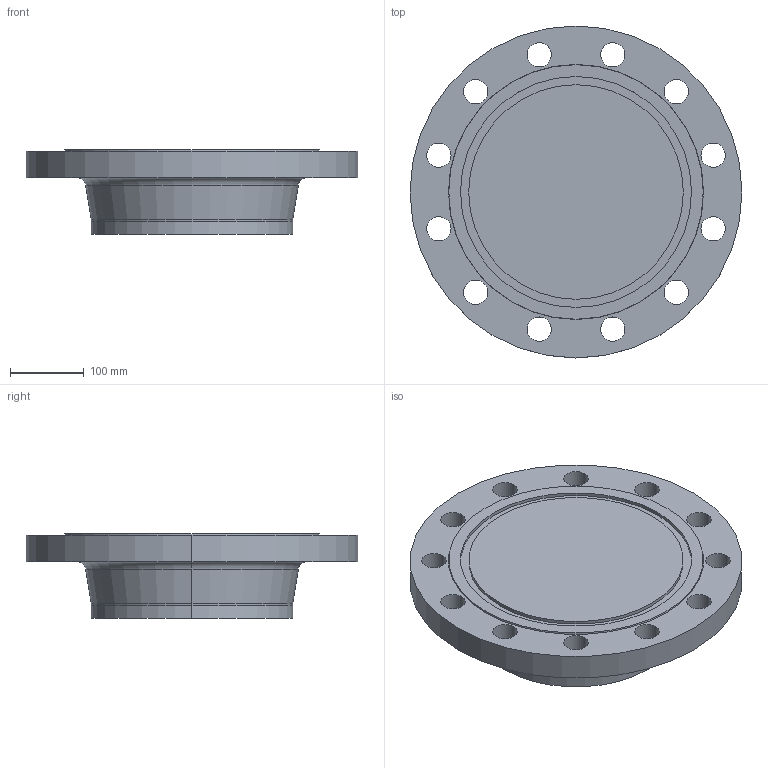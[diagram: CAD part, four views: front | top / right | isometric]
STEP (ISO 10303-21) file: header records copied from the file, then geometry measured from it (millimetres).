
FILE_DESCRIPTION (( 'STEP AP214' ), '1' );
FILE_NAME ('PN40 DN250 Type 21(ii) - Type D Face.STEP', '2019-01-05T15:50:18', ( '' ), ( '' ), 'SwSTEP 2.0', 'SolidWorks 2019', '' );
FILE_SCHEMA (( 'AUTOMOTIVE_DESIGN' ));
Length unit declared in the file: millimetre
Products named in the file (1): PN40 DN250 Type 21(ii) - Type D Face
Bounding box: 450 x 450 x 115 mm (x, y, z)
Volume: 10259067.8 mm3; surface area: 460585.7 mm2
Topology: 1 solids, 1 shells, 46 faces, 114 edges, 74 vertices
Faces by surface type: cylinder 32, plane 6, torus 4, cone 4
Entity records: 1490 total; most frequent: DIRECTION 286, CARTESIAN_POINT 235, ORIENTED_EDGE 228, AXIS2_PLACEMENT_3D 125, EDGE_CURVE 114, CIRCLE 78, EDGE_LOOP 74, VERTEX_POINT 74
